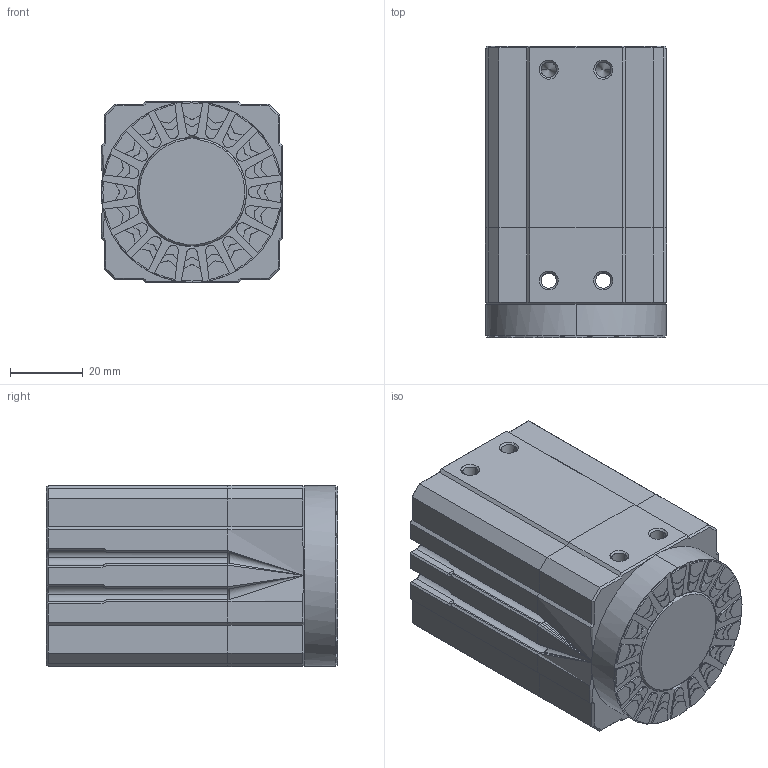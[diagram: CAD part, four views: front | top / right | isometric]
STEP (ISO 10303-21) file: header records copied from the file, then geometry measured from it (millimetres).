
FILE_DESCRIPTION (( 'STEP AP203' ), '1' );
FILE_NAME ('CHM50.STEP', '2021-06-14T18:27:07', ( '' ), ( '' ), 'SwSTEP 2.0', 'SolidWorks 2019', '' );
FILE_SCHEMA (( 'CONFIG_CONTROL_DESIGN' ));
Length unit declared in the file: millimetre
Products named in the file (1): CHM50
Bounding box: 50 x 80.2 x 50 mm (x, y, z)
Surface area: 25578.4 mm2 (no closed solid volume)
Topology: 0 solids, 2 shells, 589 faces, 1476 edges, 930 vertices
Faces by surface type: plane 379, cylinder 148, cone 52, torus 10
Entity records: 21418 total; most frequent: CARTESIAN_POINT 10336, ORIENTED_EDGE 2890, EDGE_CURVE 1476, B_SPLINE_CURVE_WITH_KNOTS 1476, DIRECTION 1180, VERTEX_POINT 930, EDGE_LOOP 640, AXIS2_PLACEMENT_3D 590
